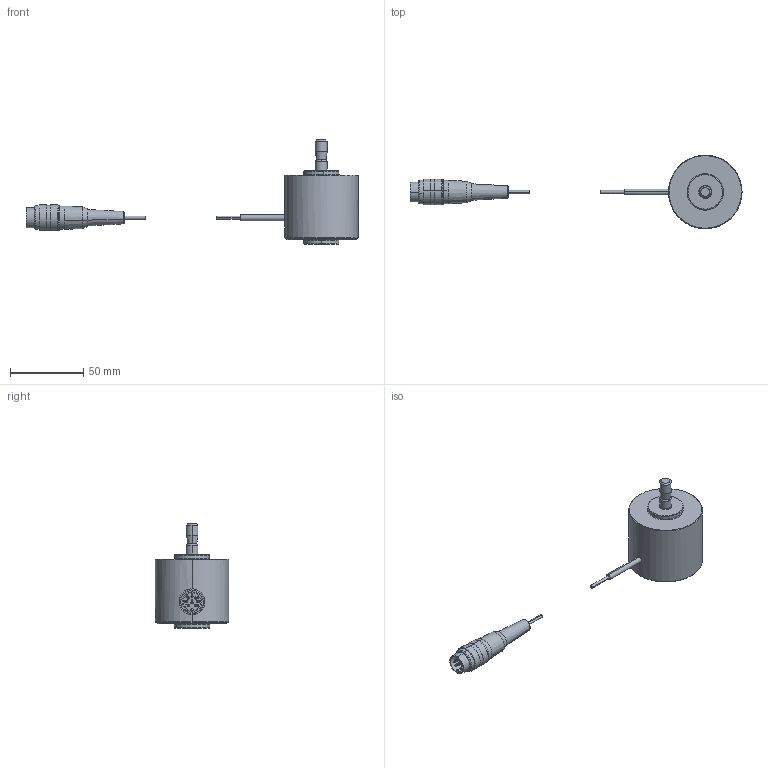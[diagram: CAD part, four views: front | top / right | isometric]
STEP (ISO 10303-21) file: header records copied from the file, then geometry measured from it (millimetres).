
FILE_DESCRIPTION(('STEP AP203'),'1');
FILE_NAME('C:/TPO v2/SharedFS/Outgoing/burster_8552-6010-v1110_38rqwmb6x5h7vcbcbc49ergob.stp','2013-08-27T17:58:22',('TraceParts'),('TraceParts S.A.'),'XStep 1.0',' ',' ');
FILE_SCHEMA(('CONFIG_CONTROL_DESIGN'));
Length unit declared in the file: millimetre
Products named in the file (3): 1; 2; 3
Bounding box: 225.89 x 50 x 71 mm (x, y, z)
Volume: 97439.6 mm3; surface area: 28966.7 mm2
Topology: 3 solids, 6 shells, 347 faces, 922 edges, 624 vertices
Faces by surface type: plane 115, bspline 84, cylinder 82, cone 50, torus 14, sphere 2
Entity records: 14853 total; most frequent: CARTESIAN_POINT 6392, ORIENTED_EDGE 1844, DIRECTION 1558, EDGE_CURVE 922, VERTEX_POINT 624, AXIS2_PLACEMENT_3D 578, LINE 402, VECTOR 402
